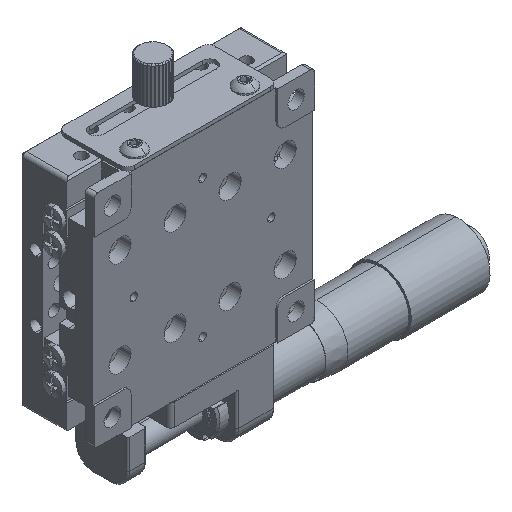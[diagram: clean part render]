
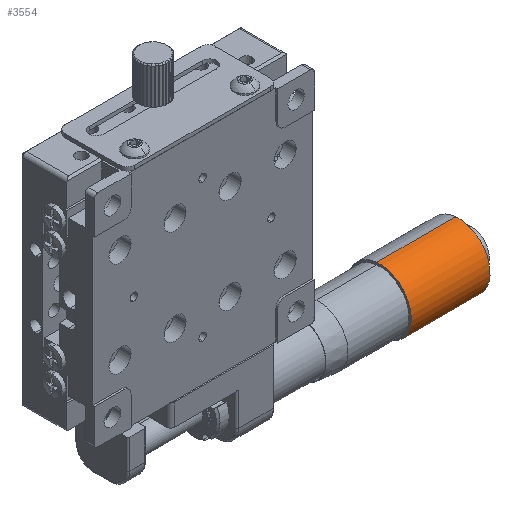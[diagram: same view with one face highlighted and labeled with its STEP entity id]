
A CAD part, isometric view. The second image highlights one B-rep face of the part: STEP entity #3554.
In plain terms, the highlighted cylindrical face has radius 8.6 mm (diameter 17.2 mm), a partial arc.
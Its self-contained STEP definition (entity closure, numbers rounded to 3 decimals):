
#1492 = DIRECTION ( 'NONE',  ( 0., -0.093, -0.996 ) ) ;
#1974 = ORIENTED_EDGE ( 'NONE', *, *, #5774, .T. ) ;
#2810 = CIRCLE ( 'NONE', #22779, 8.6 ) ;
#3554 = ADVANCED_FACE ( 'NONE', ( #32397 ), #7916, .T. ) ;
#3590 = DIRECTION ( 'NONE',  ( -1., 0., 0. ) ) ;
#3981 = CARTESIAN_POINT ( 'NONE',  ( -44.517, -487.628, 301.093 ) ) ;
#5248 = DIRECTION ( 'NONE',  ( 0., -0.093, -0.996 ) ) ;
#5728 = VERTEX_POINT ( 'NONE', #3981 ) ;
#5774 = EDGE_CURVE ( 'NONE', #8430, #5728, #12354, .T. ) ;
#6366 = CARTESIAN_POINT ( 'NONE',  ( -23.017, -489.226, 283.967 ) ) ;
#6932 = VERTEX_POINT ( 'NONE', #6366 ) ;
#7916 = CYLINDRICAL_SURFACE ( 'NONE', #21305, 8.6 ) ;
#8430 = VERTEX_POINT ( 'NONE', #23304 ) ;
#8947 = LINE ( 'NONE', #28068, #30722 ) ;
#10162 = DIRECTION ( 'NONE',  ( -1., 0., 0. ) ) ;
#12354 = LINE ( 'NONE', #23271, #33537 ) ;
#15045 = CARTESIAN_POINT ( 'NONE',  ( -44.517, -488.427, 292.53 ) ) ;
#16175 = ORIENTED_EDGE ( 'NONE', *, *, #16285, .F. ) ;
#16285 = EDGE_CURVE ( 'NONE', #6932, #25892, #8947, .T. ) ;
#17303 = EDGE_LOOP ( 'NONE', ( #31185, #1974, #31777, #16175 ) ) ;
#18808 = CARTESIAN_POINT ( 'NONE',  ( -111.817, -488.427, 292.53 ) ) ;
#19543 = AXIS2_PLACEMENT_3D ( 'NONE', #34669, #10162, #21074 ) ;
#21074 = DIRECTION ( 'NONE',  ( 0., -0.093, -0.996 ) ) ;
#21170 = EDGE_CURVE ( 'NONE', #25892, #5728, #2810, .T. ) ;
#21305 = AXIS2_PLACEMENT_3D ( 'NONE', #18808, #29716, #5248 ) ;
#22779 = AXIS2_PLACEMENT_3D ( 'NONE', #15045, #25969, #1492 ) ;
#23271 = CARTESIAN_POINT ( 'NONE',  ( -111.817, -487.628, 301.093 ) ) ;
#23304 = CARTESIAN_POINT ( 'NONE',  ( -23.017, -487.628, 301.093 ) ) ;
#25892 = VERTEX_POINT ( 'NONE', #27943 ) ;
#25969 = DIRECTION ( 'NONE',  ( -1., 0., 0. ) ) ;
#27943 = CARTESIAN_POINT ( 'NONE',  ( -44.517, -489.226, 283.967 ) ) ;
#28068 = CARTESIAN_POINT ( 'NONE',  ( -111.817, -489.226, 283.967 ) ) ;
#29716 = DIRECTION ( 'NONE',  ( -1., 0., 0. ) ) ;
#29877 = EDGE_CURVE ( 'NONE', #6932, #8430, #34949, .T. ) ;
#30722 = VECTOR ( 'NONE', #3590, 1000. ) ;
#31185 = ORIENTED_EDGE ( 'NONE', *, *, #29877, .T. ) ;
#31777 = ORIENTED_EDGE ( 'NONE', *, *, #21170, .F. ) ;
#32397 = FACE_OUTER_BOUND ( 'NONE', #17303, .T. ) ;
#33537 = VECTOR ( 'NONE', #34174, 1000. ) ;
#34174 = DIRECTION ( 'NONE',  ( -1., 0., 0. ) ) ;
#34669 = CARTESIAN_POINT ( 'NONE',  ( -23.017, -488.427, 292.53 ) ) ;
#34949 = CIRCLE ( 'NONE', #19543, 8.6 ) ;
